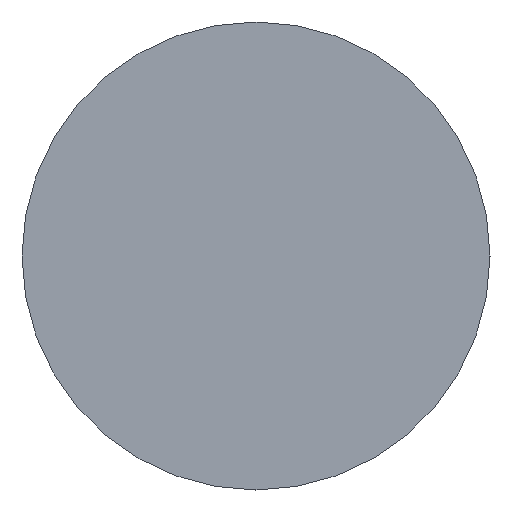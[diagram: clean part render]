
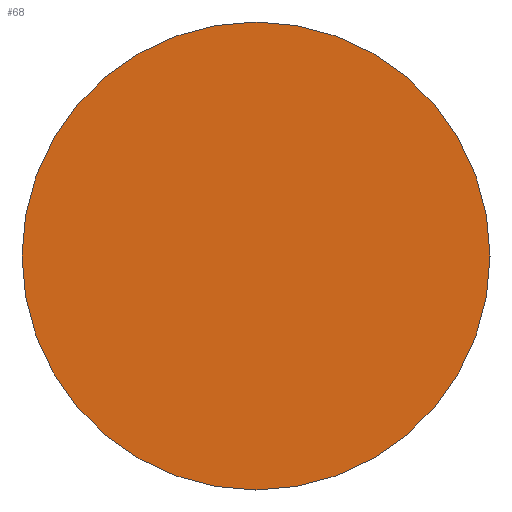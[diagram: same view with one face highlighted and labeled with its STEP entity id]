
A CAD part, left-side view. The second image highlights one B-rep face of the part: STEP entity #68.
In plain terms, the highlighted planar face has unit normal (-1, 0, 0).
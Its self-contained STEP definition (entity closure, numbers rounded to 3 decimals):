
#23 = ORIENTED_EDGE ( 'NONE', *, *, #303, .T. ) ;
#24 = CARTESIAN_POINT ( 'NONE',  ( -130., 0., 0. ) ) ;
#29 = EDGE_CURVE ( 'NONE', #72, #429, #65, .T. ) ;
#40 = CARTESIAN_POINT ( 'NONE',  ( -130., 0., -8. ) ) ;
#64 = AXIS2_PLACEMENT_3D ( 'NONE', #388, #294, #456 ) ;
#65 = CIRCLE ( 'NONE', #350, 8. ) ;
#68 = ADVANCED_FACE ( 'NONE', ( #450 ), #411, .F. ) ;
#72 = VERTEX_POINT ( 'NONE', #404 ) ;
#95 = AXIS2_PLACEMENT_3D ( 'NONE', #178, #409, #175 ) ;
#175 = DIRECTION ( 'NONE',  ( 0., 0., -1. ) ) ;
#178 = CARTESIAN_POINT ( 'NONE',  ( -130., 8., 0. ) ) ;
#184 = EDGE_LOOP ( 'NONE', ( #334, #23 ) ) ;
#198 = DIRECTION ( 'NONE',  ( 0., 0., 1. ) ) ;
#288 = DIRECTION ( 'NONE',  ( -1., 0., 0. ) ) ;
#294 = DIRECTION ( 'NONE',  ( -1., 0., 0. ) ) ;
#303 = EDGE_CURVE ( 'NONE', #429, #72, #485, .T. ) ;
#334 = ORIENTED_EDGE ( 'NONE', *, *, #29, .T. ) ;
#350 = AXIS2_PLACEMENT_3D ( 'NONE', #24, #288, #198 ) ;
#388 = CARTESIAN_POINT ( 'NONE',  ( -130., 0., 0. ) ) ;
#404 = CARTESIAN_POINT ( 'NONE',  ( -130., 0., 8. ) ) ;
#409 = DIRECTION ( 'NONE',  ( 1., 0., 0. ) ) ;
#411 = PLANE ( 'NONE',  #95 ) ;
#429 = VERTEX_POINT ( 'NONE', #40 ) ;
#450 = FACE_OUTER_BOUND ( 'NONE', #184, .T. ) ;
#456 = DIRECTION ( 'NONE',  ( 0., 0., 1. ) ) ;
#485 = CIRCLE ( 'NONE', #64, 8. ) ;
